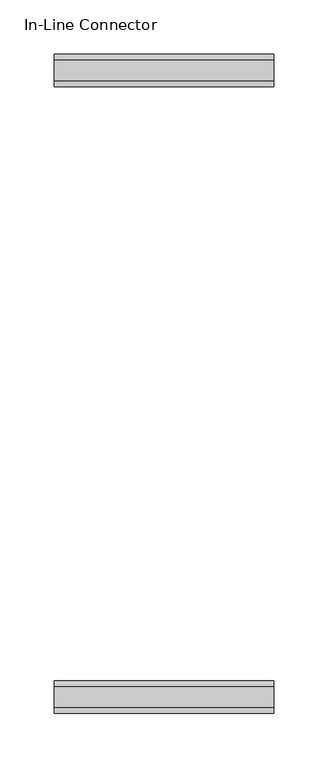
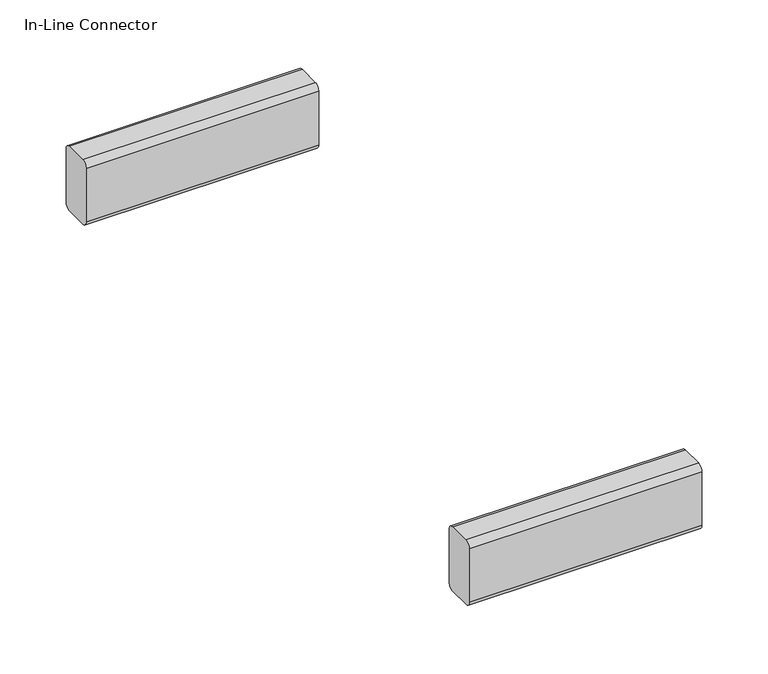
"""IFC4 building model written with IfcOpenShell, lengths in millimetres: furniture geometry, Coalesse_AM_Ensemble_Chaise_EndOption : In-Line Connector."""

from ifc_helpers import new_model, si_unit, point, frame, frame_2d, origin, place, context, project, spatial, polyline, circle_curve, trimmed, segment, composite_curve, outline, extrude, source, transform, mapped, element, save


def in_line_connector_24b8dcd2(model_context):
    return source(origin(), model_context, "Body", "SweptSolid", [
        extrude(outline(composite_curve([segment(trimmed(circle_curve(frame_2d((-108.865872, 125.0107271)), 5.08), [point((-108.865872, 130.0907271))], [point((-103.785872, 125.0107271))], False, "CARTESIAN"), True, "CONTINUOUS"), segment(polyline([(-103.785872, 125.0107271), (-103.785872, 75.6579413)]), True, "CONTINUOUS"), segment(trimmed(circle_curve(frame_2d((-108.865872, 75.6579413)), 5.08), [point((-103.785872, 75.6579413))], [point((-108.865872, 70.5779413))], False, "CARTESIAN"), True, "CONTINUOUS"), segment(polyline([(-108.865872, 70.5779413), (-129.0980339, 70.5779413)]), True, "CONTINUOUS"), segment(trimmed(circle_curve(frame_2d((-129.0980339, 75.5475648)), 4.9696236), [point((-129.0980339, 70.5779413))], [point((-134.0676575, 75.5475648))], False, "CARTESIAN"), True, "CONTINUOUS"), segment(polyline([(-134.0676575, 75.5475648), (-134.0676575, 125.0107271)]), True, "CONTINUOUS"), segment(trimmed(circle_curve(frame_2d((-128.9876575, 125.0107271)), 5.08), [point((-134.0676575, 125.0107271))], [point((-128.9876575, 130.0907271))], False, "CARTESIAN"), True, "CONTINUOUS"), segment(polyline([(-128.9876575, 130.0907271), (-108.865872, 130.0907271)]), True, "CONTINUOUS")], self_intersect=False)), frame((0.0, 0.0, 0.0), z_axis=(1.0, 0.0, 0.0), x_axis=(0.0, 1.0, 0.0)), (0.0, 0.0, 1.0), 203.2),
        extrude(outline(composite_curve([segment(trimmed(circle_curve(frame_2d((-688.6735965, 125.0107271)), 5.08), [point((-688.6735965, 130.0907271))], [point((-683.5935965, 125.0107271))], False, "CARTESIAN"), True, "CONTINUOUS"), segment(polyline([(-683.5935965, 125.0107271), (-683.5935965, 75.6579413)]), True, "CONTINUOUS"), segment(trimmed(circle_curve(frame_2d((-688.6735965, 75.6579413)), 5.08), [point((-683.5935965, 75.6579413))], [point((-688.6735965, 70.5779413))], False, "CARTESIAN"), True, "CONTINUOUS"), segment(polyline([(-688.6735965, 70.5779413), (-708.9057584, 70.5779413)]), True, "CONTINUOUS"), segment(trimmed(circle_curve(frame_2d((-708.9057584, 75.5475648)), 4.9696236), [point((-708.9057584, 70.5779413))], [point((-713.875382, 75.5475648))], False, "CARTESIAN"), True, "CONTINUOUS"), segment(polyline([(-713.875382, 75.5475648), (-713.875382, 125.0107271)]), True, "CONTINUOUS"), segment(trimmed(circle_curve(frame_2d((-708.795382, 125.0107271)), 5.08), [point((-713.875382, 125.0107271))], [point((-708.795382, 130.0907271))], False, "CARTESIAN"), True, "CONTINUOUS"), segment(polyline([(-708.795382, 130.0907271), (-688.6735965, 130.0907271)]), True, "CONTINUOUS")], self_intersect=False)), frame((0.0, 0.0, 0.0), z_axis=(1.0, 0.0, 0.0), x_axis=(0.0, 1.0, 0.0)), (0.0, 0.0, 1.0), 203.2),
    ])


if __name__ == "__main__":
    model = new_model("IFC4")
    model_context = context("Model", 3, world=origin())
    ifc_project = project(units=[si_unit("LENGTHUNIT", "METRE", prefix="MILLI")], contexts=[model_context])
    site = spatial("IfcSite", under=ifc_project)
    building = spatial("IfcBuilding", under=site)
    placement = place(None, origin())
    in_line_connector_shape = in_line_connector_24b8dcd2(model_context)
    element("IfcFurniture", 1, ObjectType="Coalesse_AM_Ensemble_Chaise_EndOption : In-Line Connector", at=placement, inside=building, context=model_context, shape_type="MappedRepresentation", body=[
        mapped(in_line_connector_shape, transform((0.0, 0.0, 0.0), x_axis=(1.0, 0.0, 0.0), y_axis=(0.0, 1.0, 0.0), z_axis=(0.0, 0.0, 1.0))),
    ])
    save(model, "model.ifc")
